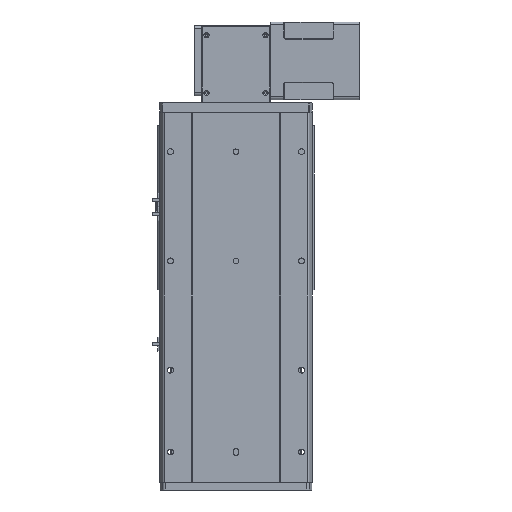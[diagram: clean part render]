
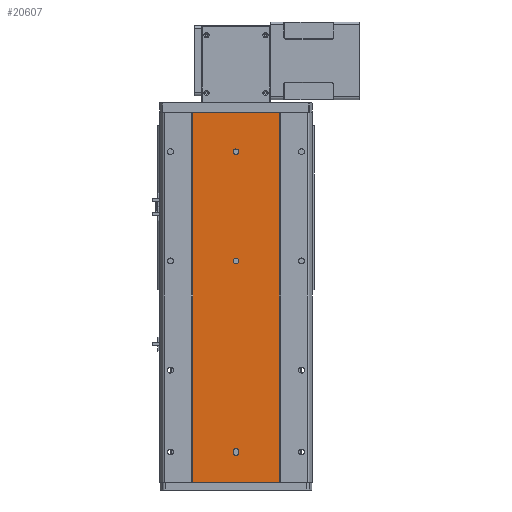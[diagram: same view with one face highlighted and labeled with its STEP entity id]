
A CAD part, front view. The second image highlights one B-rep face of the part: STEP entity #20607.
In plain terms, the highlighted planar face has unit normal (0, -1, 0).
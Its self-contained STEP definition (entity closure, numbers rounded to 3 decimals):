
#432 = DIRECTION ( 'NONE',  ( 1., 0., 0. ) ) ;
#725 = ORIENTED_EDGE ( 'NONE', *, *, #26509, .T. ) ;
#761 = ORIENTED_EDGE ( 'NONE', *, *, #14494, .T. ) ;
#1241 = AXIS2_PLACEMENT_3D ( 'NONE', #7054, #11508, #27471 ) ;
#1494 = EDGE_CURVE ( 'NONE', #17059, #7515, #23733, .T. ) ;
#1709 = CARTESIAN_POINT ( 'NONE',  ( -5., 1.5, -623. ) ) ;
#1829 = CARTESIAN_POINT ( 'NONE',  ( 0., 1.5, -276.5 ) ) ;
#1859 = VECTOR ( 'NONE', #5638, 1000. ) ;
#2397 = DIRECTION ( 'NONE',  ( 1., 0., 0. ) ) ;
#2422 = CARTESIAN_POINT ( 'NONE',  ( -5., 1.5, -620. ) ) ;
#2465 = ORIENTED_EDGE ( 'NONE', *, *, #11528, .F. ) ;
#3420 = VERTEX_POINT ( 'NONE', #11282 ) ;
#4081 = EDGE_CURVE ( 'NONE', #9748, #4830, #20707, .T. ) ;
#4269 = AXIS2_PLACEMENT_3D ( 'NONE', #18376, #20613, #7193 ) ;
#4499 = DIRECTION ( 'NONE',  ( 1., 0., 0. ) ) ;
#4557 = LINE ( 'NONE', #22284, #10467 ) ;
#4672 = FACE_BOUND ( 'NONE', #14928, .T. ) ;
#4703 = CARTESIAN_POINT ( 'NONE',  ( -5., 1.5, -677. ) ) ;
#4830 = VERTEX_POINT ( 'NONE', #16483 ) ;
#5179 = EDGE_CURVE ( 'NONE', #17303, #25322, #16047, .T. ) ;
#5184 = ORIENTED_EDGE ( 'NONE', *, *, #27051, .T. ) ;
#5219 = CARTESIAN_POINT ( 'NONE',  ( 0., 1.5, -71.5 ) ) ;
#5638 = DIRECTION ( 'NONE',  ( 0., 0., -1. ) ) ;
#5707 = CARTESIAN_POINT ( 'NONE',  ( 0., 1.5, -71.5 ) ) ;
#6341 = DIRECTION ( 'NONE',  ( 0., 0., 1. ) ) ;
#6479 = CARTESIAN_POINT ( 'NONE',  ( -79., 1.5, -677. ) ) ;
#6592 = DIRECTION ( 'NONE',  ( 0., 1., 0. ) ) ;
#6740 = ORIENTED_EDGE ( 'NONE', *, *, #18766, .T. ) ;
#7054 = CARTESIAN_POINT ( 'NONE',  ( -79., 1.5, -677. ) ) ;
#7193 = DIRECTION ( 'NONE',  ( 1., 0., 0. ) ) ;
#7234 = ORIENTED_EDGE ( 'NONE', *, *, #25750, .T. ) ;
#7281 = VECTOR ( 'NONE', #8336, 1000. ) ;
#7467 = EDGE_CURVE ( 'NONE', #4830, #27566, #10916, .T. ) ;
#7515 = VERTEX_POINT ( 'NONE', #8859 ) ;
#8305 = VECTOR ( 'NONE', #23458, 1000. ) ;
#8336 = DIRECTION ( 'NONE',  ( 0., 0., 1. ) ) ;
#8497 = FACE_BOUND ( 'NONE', #11090, .T. ) ;
#8859 = CARTESIAN_POINT ( 'NONE',  ( -79., 1.5, 0. ) ) ;
#8960 = CARTESIAN_POINT ( 'NONE',  ( 79., 1.5, -677. ) ) ;
#9039 = DIRECTION ( 'NONE',  ( 1., 0., 0. ) ) ;
#9705 = DIRECTION ( 'NONE',  ( 0., 1., 0. ) ) ;
#9748 = VERTEX_POINT ( 'NONE', #27469 ) ;
#10024 = DIRECTION ( 'NONE',  ( 0., 1., 0. ) ) ;
#10058 = EDGE_CURVE ( 'NONE', #21974, #3420, #4557, .T. ) ;
#10065 = EDGE_LOOP ( 'NONE', ( #2465, #13171, #761, #18732 ) ) ;
#10280 = AXIS2_PLACEMENT_3D ( 'NONE', #18229, #15667, #11309 ) ;
#10397 = VERTEX_POINT ( 'NONE', #12947 ) ;
#10467 = VECTOR ( 'NONE', #6341, 1000. ) ;
#10916 = CIRCLE ( 'NONE', #24483, 5. ) ;
#11090 = EDGE_LOOP ( 'NONE', ( #14893, #725 ) ) ;
#11282 = CARTESIAN_POINT ( 'NONE',  ( 79., 1.5, 0. ) ) ;
#11304 = PLANE ( 'NONE',  #1241 ) ;
#11309 = DIRECTION ( 'NONE',  ( 1., 0., 0. ) ) ;
#11351 = VECTOR ( 'NONE', #4499, 1000. ) ;
#11508 = DIRECTION ( 'NONE',  ( 0., -1., 0. ) ) ;
#11528 = EDGE_CURVE ( 'NONE', #7515, #3420, #16326, .T. ) ;
#11751 = CIRCLE ( 'NONE', #4269, 5. ) ;
#12239 = DIRECTION ( 'NONE',  ( 1., 0., 0. ) ) ;
#12273 = DIRECTION ( 'NONE',  ( 1., 0., 0. ) ) ;
#12788 = ORIENTED_EDGE ( 'NONE', *, *, #4081, .T. ) ;
#12810 = ORIENTED_EDGE ( 'NONE', *, *, #25084, .T. ) ;
#12947 = CARTESIAN_POINT ( 'NONE',  ( 5., 1.5, -620. ) ) ;
#13171 = ORIENTED_EDGE ( 'NONE', *, *, #1494, .F. ) ;
#13311 = CIRCLE ( 'NONE', #26039, 5. ) ;
#13930 = LINE ( 'NONE', #22959, #8305 ) ;
#14115 = FACE_OUTER_BOUND ( 'NONE', #10065, .T. ) ;
#14201 = AXIS2_PLACEMENT_3D ( 'NONE', #19374, #10024, #12273 ) ;
#14298 = CARTESIAN_POINT ( 'NONE',  ( 0., 1.5, -66.5 ) ) ;
#14494 = EDGE_CURVE ( 'NONE', #17059, #21974, #13930, .T. ) ;
#14893 = ORIENTED_EDGE ( 'NONE', *, *, #5179, .T. ) ;
#14928 = EDGE_LOOP ( 'NONE', ( #28643, #6740 ) ) ;
#15212 = AXIS2_PLACEMENT_3D ( 'NONE', #5707, #28115, #12239 ) ;
#15667 = DIRECTION ( 'NONE',  ( 0., 1., 0. ) ) ;
#16047 = CIRCLE ( 'NONE', #10280, 5. ) ;
#16326 = LINE ( 'NONE', #17915, #11351 ) ;
#16483 = CARTESIAN_POINT ( 'NONE',  ( 0., 1.5, -628. ) ) ;
#16765 = CARTESIAN_POINT ( 'NONE',  ( 0., 1.5, -266.5 ) ) ;
#16911 = CARTESIAN_POINT ( 'NONE',  ( 5., 1.5, -677. ) ) ;
#17059 = VERTEX_POINT ( 'NONE', #20843 ) ;
#17303 = VERTEX_POINT ( 'NONE', #1829 ) ;
#17915 = CARTESIAN_POINT ( 'NONE',  ( -79., 1.5, 0. ) ) ;
#18229 = CARTESIAN_POINT ( 'NONE',  ( 0., 1.5, -271.5 ) ) ;
#18376 = CARTESIAN_POINT ( 'NONE',  ( 0., 1.5, -271.5 ) ) ;
#18513 = VERTEX_POINT ( 'NONE', #2422 ) ;
#18587 = VERTEX_POINT ( 'NONE', #22757 ) ;
#18732 = ORIENTED_EDGE ( 'NONE', *, *, #10058, .T. ) ;
#18766 = EDGE_CURVE ( 'NONE', #28015, #18587, #25701, .T. ) ;
#19374 = CARTESIAN_POINT ( 'NONE',  ( 0., 1.5, -623. ) ) ;
#20607 = ADVANCED_FACE ( 'NONE', ( #4672, #14115, #8497, #27741 ), #11304, .T. ) ;
#20613 = DIRECTION ( 'NONE',  ( 0., 1., 0. ) ) ;
#20707 = CIRCLE ( 'NONE', #14201, 5. ) ;
#20843 = CARTESIAN_POINT ( 'NONE',  ( -79., 1.5, -677. ) ) ;
#21974 = VERTEX_POINT ( 'NONE', #8960 ) ;
#22163 = LINE ( 'NONE', #16911, #1859 ) ;
#22213 = DIRECTION ( 'NONE',  ( 0., 0., 1. ) ) ;
#22284 = CARTESIAN_POINT ( 'NONE',  ( 79., 1.5, -677. ) ) ;
#22291 = ORIENTED_EDGE ( 'NONE', *, *, #7467, .T. ) ;
#22453 = CARTESIAN_POINT ( 'NONE',  ( 0., 1.5, -620. ) ) ;
#22757 = CARTESIAN_POINT ( 'NONE',  ( 0., 1.5, -76.5 ) ) ;
#22801 = CIRCLE ( 'NONE', #25015, 5. ) ;
#22959 = CARTESIAN_POINT ( 'NONE',  ( -79., 1.5, -677. ) ) ;
#23458 = DIRECTION ( 'NONE',  ( 1., 0., 0. ) ) ;
#23733 = LINE ( 'NONE', #6479, #7281 ) ;
#23843 = EDGE_LOOP ( 'NONE', ( #7234, #12810, #5184, #12788, #22291 ) ) ;
#24483 = AXIS2_PLACEMENT_3D ( 'NONE', #24709, #6592, #2397 ) ;
#24709 = CARTESIAN_POINT ( 'NONE',  ( 0., 1.5, -623. ) ) ;
#24867 = VECTOR ( 'NONE', #22213, 1000. ) ;
#25015 = AXIS2_PLACEMENT_3D ( 'NONE', #22453, #28914, #9039 ) ;
#25084 = EDGE_CURVE ( 'NONE', #18513, #10397, #22801, .T. ) ;
#25322 = VERTEX_POINT ( 'NONE', #16765 ) ;
#25701 = CIRCLE ( 'NONE', #15212, 5. ) ;
#25750 = EDGE_CURVE ( 'NONE', #27566, #18513, #27980, .T. ) ;
#26039 = AXIS2_PLACEMENT_3D ( 'NONE', #5219, #9705, #432 ) ;
#26509 = EDGE_CURVE ( 'NONE', #25322, #17303, #11751, .T. ) ;
#27051 = EDGE_CURVE ( 'NONE', #10397, #9748, #22163, .T. ) ;
#27469 = CARTESIAN_POINT ( 'NONE',  ( 5., 1.5, -623. ) ) ;
#27471 = DIRECTION ( 'NONE',  ( 1., 0., 0. ) ) ;
#27566 = VERTEX_POINT ( 'NONE', #1709 ) ;
#27741 = FACE_BOUND ( 'NONE', #23843, .T. ) ;
#27871 = EDGE_CURVE ( 'NONE', #18587, #28015, #13311, .T. ) ;
#27980 = LINE ( 'NONE', #4703, #24867 ) ;
#28015 = VERTEX_POINT ( 'NONE', #14298 ) ;
#28115 = DIRECTION ( 'NONE',  ( 0., 1., 0. ) ) ;
#28643 = ORIENTED_EDGE ( 'NONE', *, *, #27871, .T. ) ;
#28914 = DIRECTION ( 'NONE',  ( 0., 1., 0. ) ) ;
